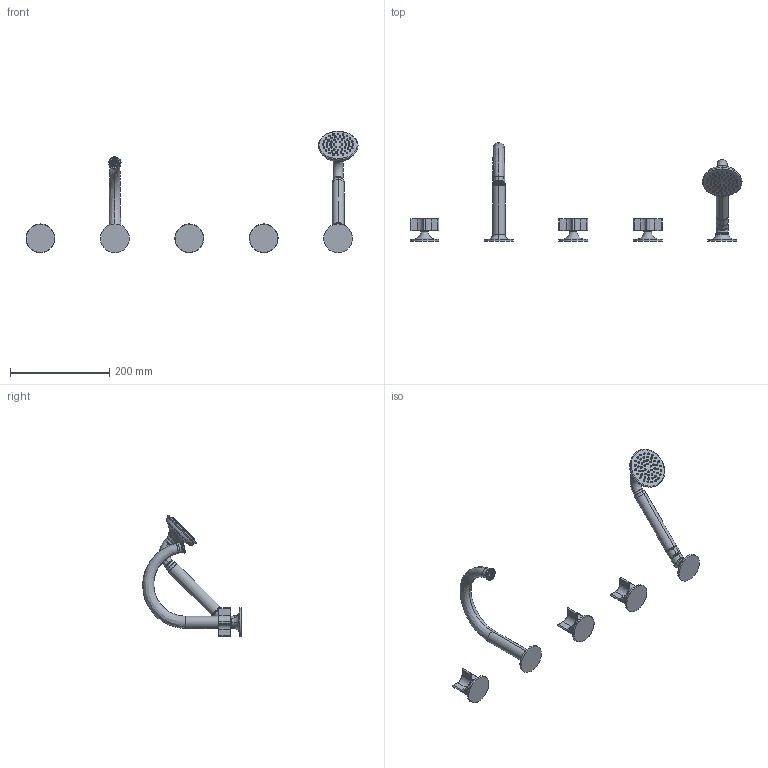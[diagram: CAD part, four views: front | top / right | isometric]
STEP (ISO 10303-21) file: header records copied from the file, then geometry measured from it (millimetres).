
FILE_DESCRIPTION((''),'2;1');
FILE_NAME('76000J6650000000_SW0001','2025-03-13T15:12:35',('cristian.dorz'),(''),'CREO PARAMETRIC BY PTC INC, 2022281','CREO PARAMETRIC BY PTC INC, 2022281','');
FILE_SCHEMA(('AUTOMOTIVE_DESIGN { 1 0 10303 214 1 1 1 1 }'));
Length unit declared in the file: millimetre
Products named in the file (1): 76000J6650000000_SW0001
Bounding box: 669 x 198.79 x 244.72 mm (x, y, z)
Volume: 431161.3 mm3; surface area: 119648.4 mm2
Topology: 5 solids, 11 shells, 852 faces, 1867 edges, 1180 vertices
Faces by surface type: cone 280, plane 244, cylinder 202, torus 114, bspline 12
Entity records: 35484 total; most frequent: CARTESIAN_POINT 10128, DIRECTION 4503, ORIENTED_EDGE 3724, AXIS2_PLACEMENT_3D 1899, PRESENTATION_STYLE_ASSIGNMENT 1882, STYLED_ITEM 1882, CURVE_STYLE 1877, EDGE_CURVE 1862
